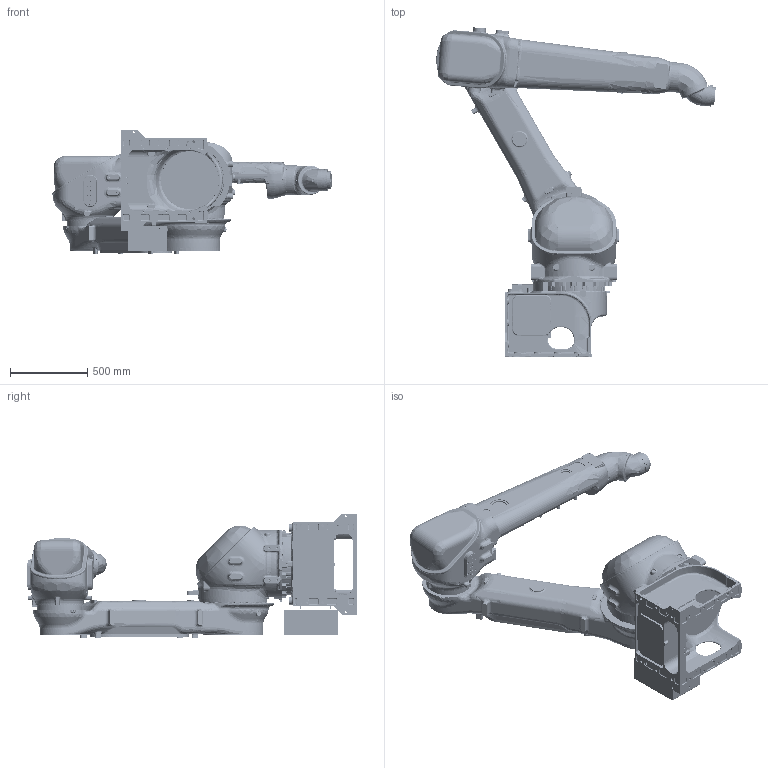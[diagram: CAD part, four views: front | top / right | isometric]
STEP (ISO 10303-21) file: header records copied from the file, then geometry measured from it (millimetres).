
FILE_DESCRIPTION(/* description */ (''),/* implementation_level */ '2;1');
FILE_NAME(/* name */ 'MPX3500.stp',/* time_stamp */ '2015-08-12T17:25:44+02:00',/* author */ (''),/* organization */ (''),/* preprocessor_version */ 'ST-DEVELOPER v14',/* originating_system */ 'SIEMENS PLM Software NX 8.0',/* authorisation */ '');
FILE_SCHEMA (('AUTOMOTIVE_DESIGN { 1 0 10303 214 3 1 1 1 }'));
Products named in the file (8): SW_BOX_ASM; T_AXIS_ASM; B_AXIS_ASM; U_AXIS_ASM; L_AXIS_ASM; S_AXIS_ASM; BASE_ASM; model1
Assembly tree (7 placements, depth 2):
  model1
    BASE_ASM
    S_AXIS_ASM
    L_AXIS_ASM
    U_AXIS_ASM
    B_AXIS_ASM
    T_AXIS_ASM
    SW_BOX_ASM
Bounding box: 1813.96 x 2135.87 x 807 mm (x, y, z)
Volume: 395177473.4 mm3; surface area: 9429915.1 mm2
Topology: 9 solids, 41 shells, 5017 faces, 12440 edges, 7709 vertices
Faces by surface type: bspline 3400, plane 1253, torus 245, extrusion 102, sphere 16, cylinder 1
Entity records: 539403 total; most frequent: CARTESIAN_POINT 457501, ORIENTED_EDGE 24522, EDGE_CURVE 12261, B_SPLINE_CURVE_WITH_KNOTS 10829, VERTEX_POINT 7709, EDGE_LOOP 5516, ADVANCED_FACE 5017, FACE_OUTER_BOUND 4757
